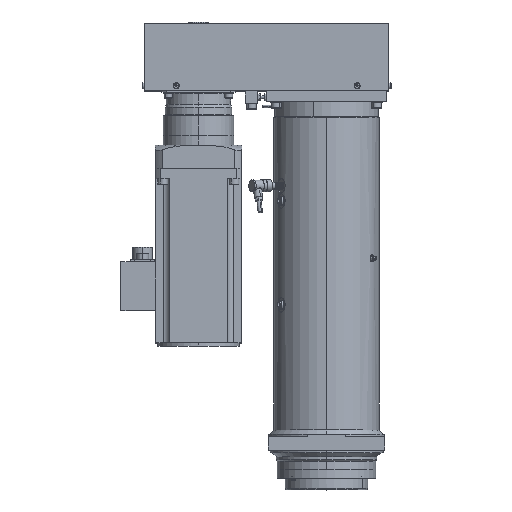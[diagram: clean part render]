
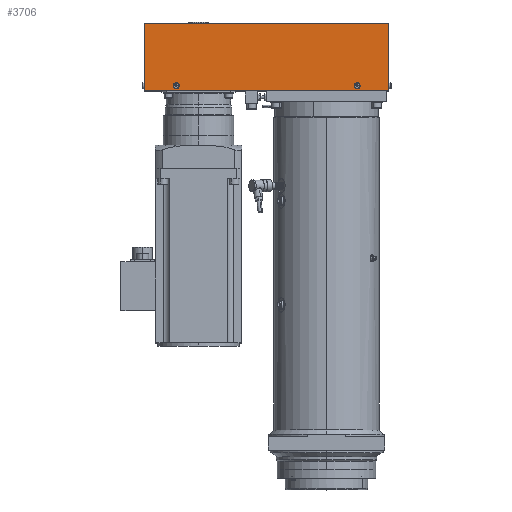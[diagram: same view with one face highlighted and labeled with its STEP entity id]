
A CAD part, top view. The second image highlights one B-rep face of the part: STEP entity #3706.
In plain terms, the highlighted planar face has unit normal (0, 0, 1).
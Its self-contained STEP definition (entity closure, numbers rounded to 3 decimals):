
#1089 = DIRECTION ( 'NONE',  ( 1., 0., 0. ) ) ;
#1527 = CARTESIAN_POINT ( 'NONE',  ( -251.155, 452.434, 192.364 ) ) ;
#2119 = DIRECTION ( 'NONE',  ( 1., 0., 0. ) ) ;
#2577 = VERTEX_POINT ( 'NONE', #3657 ) ;
#3657 = CARTESIAN_POINT ( 'NONE',  ( 148.345, 452.434, 192.364 ) ) ;
#3706 = ADVANCED_FACE ( 'NONE', ( #47290, #48673, #10688 ), #12104, .F. ) ;
#4831 = CARTESIAN_POINT ( 'NONE',  ( -251.155, 562.934, 192.364 ) ) ;
#4994 = VECTOR ( 'NONE', #37064, 1000. ) ;
#6122 = CARTESIAN_POINT ( 'NONE',  ( 99.895, 460.934, 192.364 ) ) ;
#6355 = CARTESIAN_POINT ( 'NONE',  ( 96.595, 460.934, 192.364 ) ) ;
#7242 = CARTESIAN_POINT ( 'NONE',  ( -251.155, 562.934, 192.364 ) ) ;
#7470 = CARTESIAN_POINT ( 'NONE',  ( 96.595, 460.934, 192.364 ) ) ;
#8806 = AXIS2_PLACEMENT_3D ( 'NONE', #7470, #20774, #46803 ) ;
#10688 = FACE_OUTER_BOUND ( 'NONE', #21605, .T. ) ;
#10848 = ORIENTED_EDGE ( 'NONE', *, *, #23747, .F. ) ;
#11601 = VERTEX_POINT ( 'NONE', #31431 ) ;
#12030 = CIRCLE ( 'NONE', #44718, 3.3 ) ;
#12104 = PLANE ( 'NONE',  #15155 ) ;
#12307 = EDGE_CURVE ( 'NONE', #20224, #36727, #37901, .T. ) ;
#12751 = DIRECTION ( 'NONE',  ( 0., -1., 0. ) ) ;
#14180 = EDGE_CURVE ( 'NONE', #45780, #2577, #26746, .T. ) ;
#14283 = DIRECTION ( 'NONE',  ( 1., 0., 0. ) ) ;
#15155 = AXIS2_PLACEMENT_3D ( 'NONE', #21173, #43137, #47570 ) ;
#16368 = VECTOR ( 'NONE', #14283, 1000. ) ;
#16497 = DIRECTION ( 'NONE',  ( 1., 0., 0. ) ) ;
#16611 = CARTESIAN_POINT ( 'NONE',  ( -251.155, 562.934, 192.364 ) ) ;
#18145 = ORIENTED_EDGE ( 'NONE', *, *, #38936, .F. ) ;
#18505 = VERTEX_POINT ( 'NONE', #33754 ) ;
#20224 = VERTEX_POINT ( 'NONE', #48955 ) ;
#20774 = DIRECTION ( 'NONE',  ( 0., 0., 1. ) ) ;
#20852 = DIRECTION ( 'NONE',  ( 1., 0., 0. ) ) ;
#21173 = CARTESIAN_POINT ( 'NONE',  ( -251.155, 562.934, 192.364 ) ) ;
#21436 = DIRECTION ( 'NONE',  ( 0., 0., 1. ) ) ;
#21605 = EDGE_LOOP ( 'NONE', ( #27565, #37465, #27869, #49712 ) ) ;
#23073 = ORIENTED_EDGE ( 'NONE', *, *, #42483, .F. ) ;
#23747 = EDGE_CURVE ( 'NONE', #34857, #11601, #42432, .T. ) ;
#23779 = LINE ( 'NONE', #16611, #50687 ) ;
#26746 = LINE ( 'NONE', #1527, #16368 ) ;
#27349 = CARTESIAN_POINT ( 'NONE',  ( -199.405, 460.934, 192.364 ) ) ;
#27565 = ORIENTED_EDGE ( 'NONE', *, *, #14180, .T. ) ;
#27869 = ORIENTED_EDGE ( 'NONE', *, *, #30260, .F. ) ;
#30260 = EDGE_CURVE ( 'NONE', #45678, #18505, #40709, .T. ) ;
#30750 = ORIENTED_EDGE ( 'NONE', *, *, #12307, .F. ) ;
#31431 = CARTESIAN_POINT ( 'NONE',  ( 93.295, 460.934, 192.364 ) ) ;
#33754 = CARTESIAN_POINT ( 'NONE',  ( 148.345, 562.934, 192.364 ) ) ;
#34857 = VERTEX_POINT ( 'NONE', #6122 ) ;
#35347 = EDGE_LOOP ( 'NONE', ( #18145, #30750 ) ) ;
#35879 = CARTESIAN_POINT ( 'NONE',  ( -251.155, 452.434, 192.364 ) ) ;
#35948 = CARTESIAN_POINT ( 'NONE',  ( 148.345, 562.934, 192.364 ) ) ;
#36209 = CIRCLE ( 'NONE', #40046, 3.3 ) ;
#36727 = VERTEX_POINT ( 'NONE', #46486 ) ;
#37064 = DIRECTION ( 'NONE',  ( 0., -1., 0. ) ) ;
#37465 = ORIENTED_EDGE ( 'NONE', *, *, #46644, .F. ) ;
#37901 = CIRCLE ( 'NONE', #47157, 3.3 ) ;
#38926 = EDGE_CURVE ( 'NONE', #45678, #45780, #23779, .T. ) ;
#38936 = EDGE_CURVE ( 'NONE', #36727, #20224, #12030, .T. ) ;
#39323 = EDGE_LOOP ( 'NONE', ( #10848, #23073 ) ) ;
#40046 = AXIS2_PLACEMENT_3D ( 'NONE', #6355, #54930, #2119 ) ;
#40709 = LINE ( 'NONE', #7242, #52410 ) ;
#42432 = CIRCLE ( 'NONE', #8806, 3.3 ) ;
#42483 = EDGE_CURVE ( 'NONE', #11601, #34857, #36209, .T. ) ;
#43137 = DIRECTION ( 'NONE',  ( 0., 0., -1. ) ) ;
#43394 = CARTESIAN_POINT ( 'NONE',  ( -199.405, 460.934, 192.364 ) ) ;
#44718 = AXIS2_PLACEMENT_3D ( 'NONE', #43394, #21436, #20852 ) ;
#45025 = LINE ( 'NONE', #35948, #4994 ) ;
#45678 = VERTEX_POINT ( 'NONE', #4831 ) ;
#45780 = VERTEX_POINT ( 'NONE', #35879 ) ;
#46486 = CARTESIAN_POINT ( 'NONE',  ( -196.105, 460.934, 192.364 ) ) ;
#46644 = EDGE_CURVE ( 'NONE', #18505, #2577, #45025, .T. ) ;
#46803 = DIRECTION ( 'NONE',  ( 1., 0., 0. ) ) ;
#47157 = AXIS2_PLACEMENT_3D ( 'NONE', #27349, #49476, #1089 ) ;
#47290 = FACE_BOUND ( 'NONE', #39323, .T. ) ;
#47570 = DIRECTION ( 'NONE',  ( -1., 0., 0. ) ) ;
#48673 = FACE_BOUND ( 'NONE', #35347, .T. ) ;
#48955 = CARTESIAN_POINT ( 'NONE',  ( -202.705, 460.934, 192.364 ) ) ;
#49476 = DIRECTION ( 'NONE',  ( 0., 0., 1. ) ) ;
#49712 = ORIENTED_EDGE ( 'NONE', *, *, #38926, .T. ) ;
#50687 = VECTOR ( 'NONE', #12751, 1000. ) ;
#52410 = VECTOR ( 'NONE', #16497, 1000. ) ;
#54930 = DIRECTION ( 'NONE',  ( 0., 0., 1. ) ) ;
